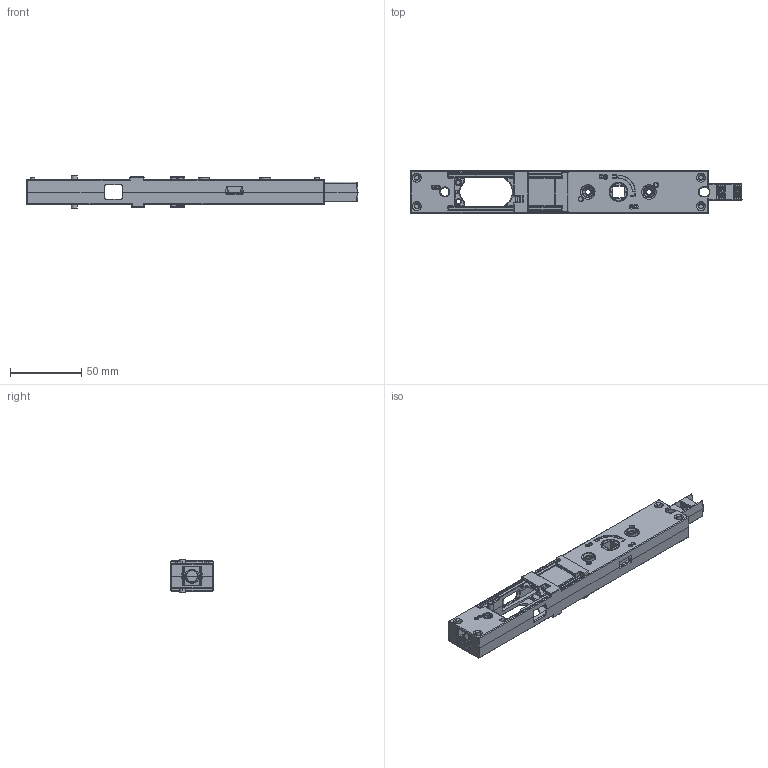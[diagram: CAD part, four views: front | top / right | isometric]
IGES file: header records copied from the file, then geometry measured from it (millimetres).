
Start section: SolidWorks IGES file using analytic representation for surfaces
Global section: file name: C:\AAPLM\User_Data\PROD\SWIM_Working\EURO TBL LK.IGS; native system: SolidWorks 2022; preprocessor: SolidWorks 2022; author: stuhor; date: 231101.073458; units: millimetre
Bounding box: 233.26 x 30 x 23.5 mm (x, y, z)
Surface area: 57431.7 mm2 (no closed solid volume)
Topology: 0 solids, 0 shells, 2093 faces, 18443 edges, 18301 vertices
Faces by surface type: bspline 1135, revolution 958
